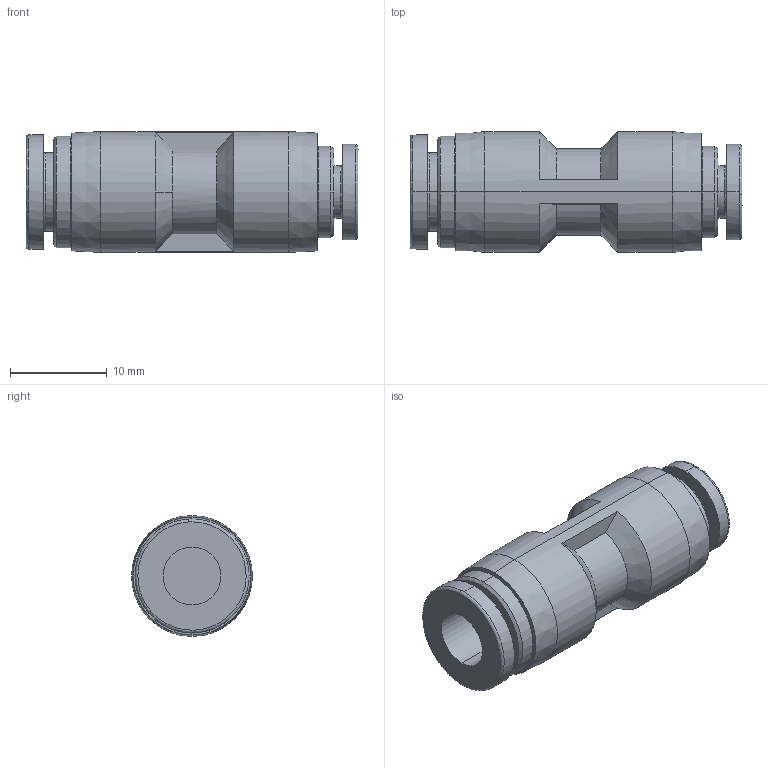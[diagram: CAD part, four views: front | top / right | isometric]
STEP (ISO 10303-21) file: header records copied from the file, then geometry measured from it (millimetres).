
FILE_DESCRIPTION (( 'STEP AP214' ), '1' );
FILE_NAME ('KQ2H04-06A.STEP', '2023-03-06T07:54:55', ( 'Windows User' ), ( 'P R C' ), 'SwSTEP 2.0', 'SolidWorks 2019', '' );
FILE_SCHEMA (( 'AUTOMOTIVE_DESIGN' ));
Length unit declared in the file: millimetre
Products named in the file (1): KQ2H04-06A
Bounding box: 34.35 x 12.5 x 12.5 mm (x, y, z)
Volume: 2816.3 mm3; surface area: 2238.6 mm2
Topology: 1 solids, 1 shells, 60 faces, 136 edges, 88 vertices
Faces by surface type: cylinder 20, cone 18, plane 14, bspline 8
Entity records: 2185 total; most frequent: CARTESIAN_POINT 816, DIRECTION 290, ORIENTED_EDGE 272, EDGE_CURVE 136, AXIS2_PLACEMENT_3D 127, VERTEX_POINT 88, CIRCLE 74, EDGE_LOOP 70
